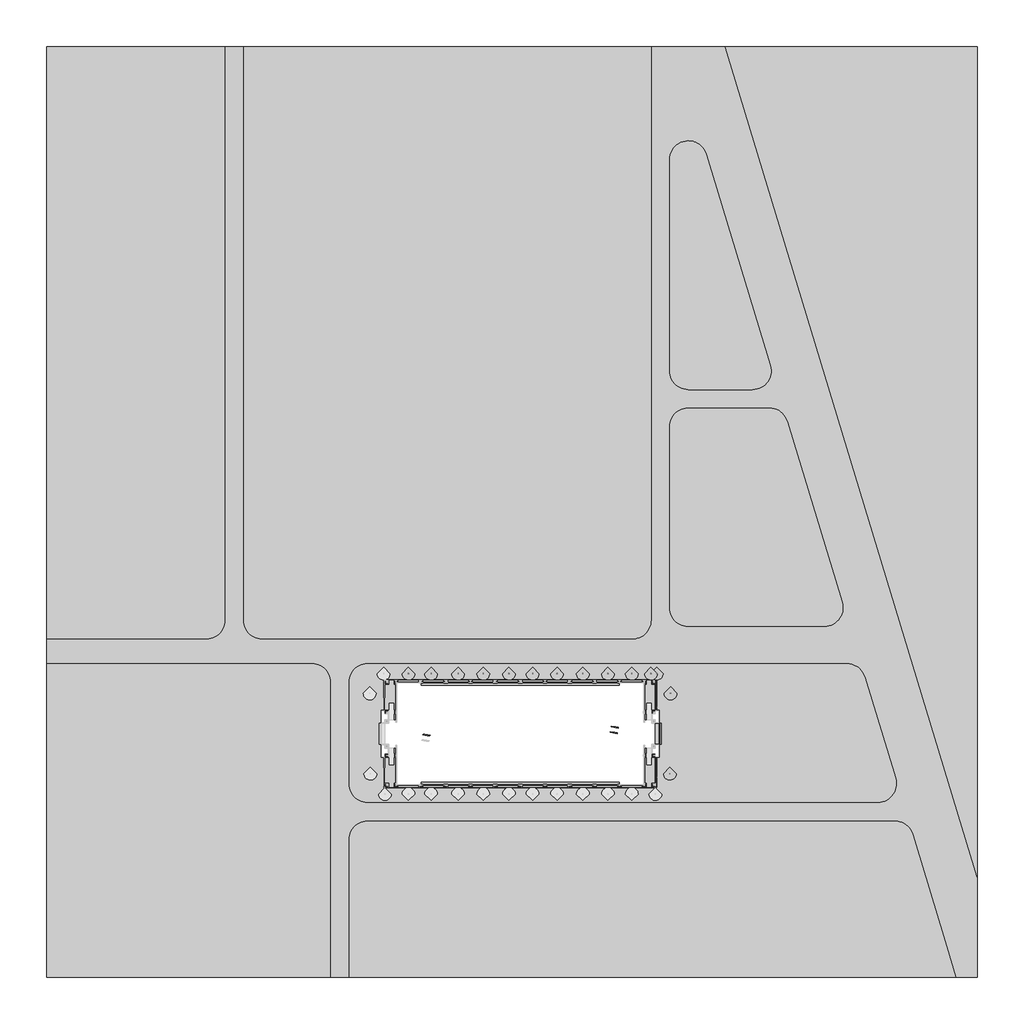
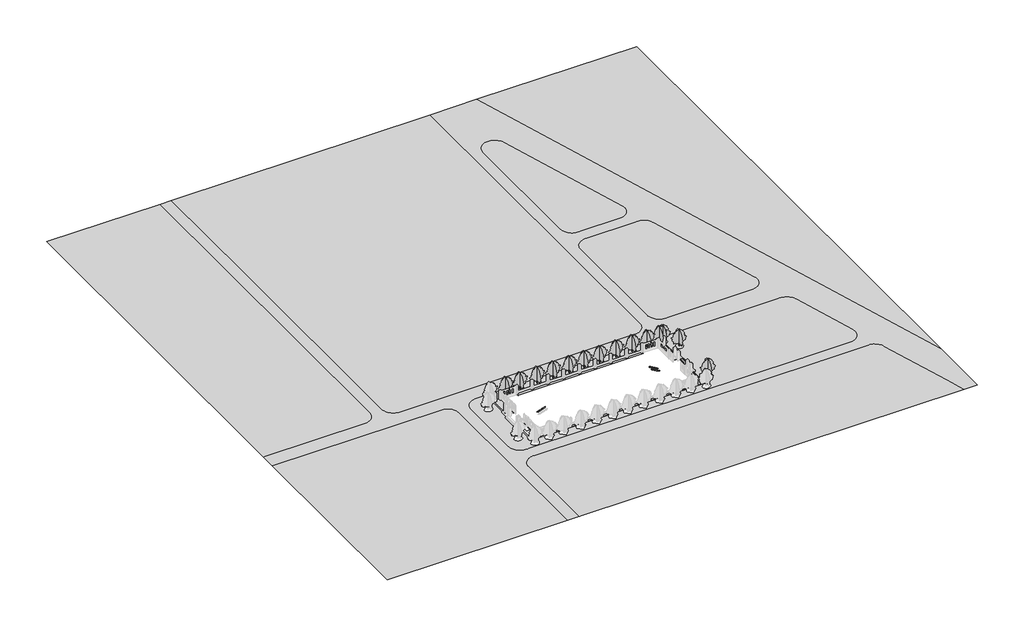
# One storey, part 5 of 5: 14 geographic elements, 5 proxies, 3 members.
"""IFC4 building model written with IfcOpenShell, lengths in millimetres."""

from ifc_helpers import new_model, si_unit, origin, place, context, project, spatial, faceted_brep, triangles, transform, mapped, element, save
from components import generic_models_a7ba552c, generic_models_5a88f2f2, generic_models_980c342f, generic_models_ba8f26eb, generic_models_7e917ab8, generic_models_fe227e94, generic_models_08f2e09a, geographic_element_3358a221, geographic_element_35dbb388

model = new_model("IFC4")

# Units and contexts
model_context = context("Model", 3, world=origin())
ifc_project = project(units=[si_unit("LENGTHUNIT", "METRE", prefix="MILLI")], contexts=[model_context])

# Site, building, storey
site = spatial("IfcSite", under=ifc_project)
building = spatial("IfcBuilding", under=site)
storey = spatial("IfcBuildingStorey", under=building, Name="室外", Elevation=-450.0)

# Proxies
placement = place(None, origin())
element("IfcBuildingElementProxy", 1, Name="Building Element Proxy", at=placement, inside=storey, context=model_context, shape_type="Tessellation", body=[
    triangles([(-52125.2136841, 238081.5049805, -450.0000034), (-109623.0854736, 238081.5049805, -450.0000034), (-109623.0854736, 47199.9980347, -450.0000034), (-58125.2148926, 47199.9980347, -450.0000034), (-57401.9939209, 47243.7488525, -450.0000034), (-56689.3211426, 47374.3501831, -450.0000034), (-55997.5866211, 47589.9044678, -450.0000034), (-55336.8781128, 47887.2630615, -450.0000034), (-54716.8275879, 48262.0959961, -450.0000034), (-54146.4810059, 48708.9338379, -450.0000034), (-53634.1494873, 49221.2653564, -450.0000034), (-53187.3116455, 49791.6119385, -450.0000034), (-52812.4787109, 50411.6624634, -450.0000034), (-52515.1201172, 51072.3709717, -450.0000034), (-52299.5658325, 51764.1054932, -450.0000034), (-52168.964502, 52476.7782715, -450.0000034), (-52125.2136841, 53199.9992432, -450.0000034), (-52125.2136841, 180583.6378418, -450.0000034), (-109623.0854736, 39199.9979736, -450.0000034), (-109623.0854736, -61918.4996338, -450.0000034), (-18125.2157501, -61918.4996338, -450.0000034), (-18125.2157501, 33199.9990906, -450.0000034), (-18168.9630798, 33923.2200623, -450.0000034), (-18299.5644104, 34635.8928406, -450.0000034), (-18515.1186951, 35327.6296875, -450.0000034), (-18812.4796143, 35988.3381958, -450.0000034), (-19187.3125488, 36608.3887207, -450.0000034), (-19634.1503906, 37178.7353027, -450.0000034), (-20146.4795837, 37691.0644958, -450.0000034), (-20716.8284912, 38137.9023376, -450.0000034), (-21336.8766907, 38512.7352722, -450.0000034), (-21997.5875244, 38810.0985168, -450.0000034), (-22689.3220459, 39025.6504761, -450.0000034), (-23401.9948242, 39156.2518066, -450.0000034), (-24125.2157959, 39199.9979736, -450.0000034), (190376.9191406, -29614.3458618, -450.0000034), (190376.9191406, 238081.5049805, -450.0000034), (109136.7523682, 238081.5049805, -450.0000034), (85196.1299561, 238081.5049805, -450.0000034), (-46125.2171265, 238081.5049805, -450.0000034), (-46125.2171265, 174583.6319824, -450.0000034), (-46125.2171265, 53199.9992432, -450.0000034), (-46081.4709595, 52476.7782715, -450.0000034), (-45950.864978, 51764.1054932, -450.0000034), (-45735.3153442, 51072.3709717, -450.0000034), (-45437.9520996, 50411.6624634, -450.0000034), (-45063.119165, 49791.6119385, -450.0000034), (-44616.2813232, 49221.2653564, -450.0000034), (-44103.9498047, 48708.9338379, -450.0000034), (-43533.6032227, 48262.0959961, -450.0000034), (-42913.5526978, 47887.2630615, -450.0000034), (-42252.8441895, 47589.9044678, -450.0000034), (-41561.109668, 47374.3501831, -450.0000034), (-40848.4368896, 47243.7488525, -450.0000034), (-40125.215918, 47199.9980347, -450.0000034), (79196.1333984, 47199.9980347, -450.0000034), (79919.3543701, 47243.7488525, -450.0000034), (80632.0271484, 47374.3501831, -450.0000034), (80976.6758789, 47481.7436279, -450.0000034), (81323.7616699, 47589.9044678, -450.0000034), (81984.4655273, 47887.2630615, -450.0000034), (82604.5207031, 48262.0959961, -450.0000034), (83174.8672852, 48708.9338379, -450.0000034), (83687.1988037, 49221.2653564, -450.0000034), (84134.0366455, 49791.6119385, -450.0000034), (84508.8695801, 50411.6624634, -450.0000034), (84806.2281738, 51072.3709717, -450.0000034), (85021.7778076, 51764.1054932, -450.0000034), (85152.3837891, 52476.7782715, -450.0000034), (85196.1299561, 53199.9992432, -450.0000034), (-12125.2157043, -61918.4996338, -450.0000034), (183459.9832031, -61918.4996338, -450.0000034), (180446.2322754, -51987.8127686, -450.0000034), (169451.0894531, -15757.5428284, -450.0000034), (169183.4220703, -15042.7120422, -450.0000034), (168827.1461426, -14367.6497589, -450.0000034), (168388.0659668, -13743.2820557, -450.0000034), (167873.2694824, -13179.7129669, -450.0000034), (167291.0724609, -12686.0628662, -450.0000034), (166650.9254883, -12270.3231262, -450.0000034), (165963.1721191, -11939.2200806, -450.0000034), (165238.9372559, -11698.1127045, -450.0000034), (164489.9783203, -11550.9054108, -450.0000034), (163728.3689941, -11499.9782867, -450.0000034), (139958.3966309, -11499.9782867, -450.0000034), (-6125.2156586, -11499.9782867, -450.0000034), (-6848.4360489, -11543.7244537, -450.0000034), (-7561.1099899, -11674.326947, -450.0000034), (-8252.8450928, -11889.880069, -450.0000034), (-8913.5547638, -12187.2421509, -450.0000034), (-9533.604126, -12562.0750854, -450.0000034), (-10103.9518707, -13008.9129272, -450.0000034), (-10616.2799011, -13521.2421204, -450.0000034), (-11063.1189056, -14091.5898651, -450.0000034), (-11437.9518402, -14711.6392273, -450.0000034), (-11735.3127594, -15372.3488983, -450.0000034), (-11950.8670441, -16064.0834198, -450.0000034), (-12081.4695374, -16776.7573608, -450.0000034), (-12125.2157043, -17499.9783325, -450.0000034), (154064.7076904, 34942.404364, -450.0000034), (153796.25896, 35658.9420227, -450.0000034), (153438.8110107, 36335.4890991, -450.0000034), (152998.1588379, 36961.0392883, -450.0000034), (152481.4833984, 37525.4234436, -450.0000034), (151897.1748779, 38019.4630554, -450.0000034), (151254.7489746, 38435.1190796, -450.0000034), (150564.6422607, 38765.6337891, -450.0000034), (149838.081958, 39005.6307678, -450.0000034), (149086.8906006, 39151.2102539, -450.0000034), (148323.2720947, 39199.9979736, -450.0000034), (89258.4215332, 39199.9979736, -450.0000034), (-6125.2150772, 39199.9979736, -450.0000034), (-6848.4354675, 39156.2518066, -450.0000034), (-7561.1094086, 39025.6504761, -450.0000034), (-8252.8445114, 38810.0961914, -450.0000034), (-8913.5541824, 38512.7352722, -450.0000034), (-9533.6035446, 38137.9023376, -450.0000034), (-10103.950708, 37691.0644958, -450.0000034), (-10616.2799011, 37178.7353027, -450.0000034), (-11063.1177429, 36608.3887207, -450.0000034), (-11437.9506775, 35988.3381958, -450.0000034), (-11735.3127594, 35327.6296875, -450.0000034), (-11950.8658813, 34635.895166, -450.0000034), (-12081.4683746, 33923.2200623, -450.0000034), (-12125.2145416, 33200.001416, -450.0000034), (-12125.2145416, 500.024966, -450.0000034), (-12081.4683746, -223.1948793, -450.0000034), (-11950.8658813, -935.8685297, -450.0000034), (-11735.3127594, -1627.6037052, -450.0000034), (-11437.9506775, -2288.3130856, -450.0000034), (-11063.1177429, -2908.3623024, -450.0000034), (-10616.2799011, -3478.7094658, -450.0000034), (-10103.950708, -3991.0377869, -450.0000034), (-9533.6035446, -4437.87621, -450.0000034), (-8913.5541824, -4812.7088539, -450.0000034), (-8252.8445114, -5110.0700638, -450.0000034), (-7561.1094086, -5325.6231857, -450.0000034), (-6848.4354675, -5456.2250977, -450.0000034), (-6125.2156586, -5499.971846, -450.0000034), (133958.3907715, -5499.971846, -450.0000034), (158247.0291504, -5499.971846, -450.0000034), (158991.3, -5453.6322327, -450.0000034), (159724.0552734, -5315.3319534, -450.0000034), (160434.0026367, -5087.2057617, -450.0000034), (161110.1660156, -4772.7775703, -450.0000034), (161742.1088379, -4376.9049316, -450.0000034), (162320.0642578, -3905.7017166, -450.0000034), (162835.1025879, -3366.4465508, -450.0000034), (163279.280127, -2767.4691582, -450.0000034), (163645.7321777, -2118.0208637, -450.0000034), (163928.784668, -1428.1336132, -450.0000034), (164124.0657715, -708.4635149, -450.0000034), (164228.5989258, 29.873415, -450.0000034), (164240.7098145, 775.4725788, -450.0000034), (164160.2682129, 1516.8172989, -450.0000034), (163988.4647461, 2242.4567276, -450.0000034), (-1000.0000076, 24199.6461365, -450.0000034), (-1000.0000076, 34199.396228, -450.0000034), (87000.0012451, 34199.396228, -450.0000034), (87000.0012451, 24199.6461365, -450.0000034), (86599.9977539, 24199.6461365, -450.0000034), (86599.9977539, 33799.3950623, -450.0000034), (-600.0000046, 33799.3950623, -450.0000034), (-600.0000046, 24199.6461365, -450.0000034), (-1000.0000076, 8999.745433, -450.0000034), (-600.0000046, 8999.745433, -450.0000034), (-600.0000046, -600.0052368, -450.0000034), (86599.9977539, -600.0052368, -450.0000034), (86599.9977539, 8999.745433, -450.0000034), (87000.0012451, 8999.745433, -450.0000034), (87000.0012451, -1000.0052399, -450.0000034), (-1000.0000076, -1000.0052399, -450.0000034), (87699.9957275, 24099.6452637, -450.0000034), (87699.9957275, 20099.6894165, -450.0000034), (86599.9977539, 20099.6894165, -450.0000034), (86599.9977539, 13100.3096741, -450.0000034), (87699.9957275, 13100.3096741, -450.0000034), (87699.9957275, 9100.3544083, -450.0000034), (86599.9977539, 9100.3544083, -450.0000034), (86599.9977539, 10200.6041107, -450.0000034), (85499.9997803, 10200.6041107, -450.0000034), (85499.9997803, 12000.2989105, -450.0000034), (86599.9977539, 12000.2989105, -450.0000034), (86599.9977539, 12000.6035431, -450.0000034), (83050.0004883, 12000.6035431, -450.0000034), (83050.0004883, 0.3045358, -450.0000034), (74900.0002808, 0.3045358, -450.0000034), (74900.0002808, 917.9999983, -450.0000034), (11100.0003754, 917.9999983, -450.0000034), (11100.0003754, 0.3045361, -450.0000034), (2949.9998772, 0.3045361, -450.0000034), (2949.9998772, 12000.6035431, -450.0000034), (-600.0000046, 12000.6035431, -450.0000034), (-600.0000046, 12000.2989105, -450.0000034), (500.0000038, 12000.2989105, -450.0000034), (500.0000038, 10200.6041107, -450.0000034), (-600.0000046, 10200.6041107, -450.0000034), (-600.0000046, 9100.3544083, -450.0000034), (-1700.000013, 9100.3544083, -450.0000034), (-1700.000013, 13100.3096741, -450.0000034), (-600.0000046, 13100.3096741, -450.0000034), (-600.0000046, 20099.6894165, -450.0000034), (-1700.000013, 20099.6894165, -450.0000034), (-1700.000013, 24099.6452637, -450.0000034), (-600.0000046, 24099.6452637, -450.0000034), (-600.0000046, 22999.3961426, -450.0000034), (500.0000038, 22999.3961426, -450.0000034), (500.0000038, 21199.7013428, -450.0000034), (-600.0000046, 21199.7013428, -450.0000034), (-600.0000046, 21199.3967102, -450.0000034), (2949.9998772, 21199.3967102, -450.0000034), (2949.9998772, 33199.694458, -450.0000034), (11100.0003754, 33199.694458, -450.0000034), (11100.0003754, 32281.9993103, -450.0000034), (74900.0002808, 32281.9993103, -450.0000034), (74900.0002808, 33199.694458, -450.0000034), (83050.0004883, 33199.694458, -450.0000034), (83050.0004883, 21199.3967102, -450.0000034), (86599.9977539, 21199.3967102, -450.0000034), (86599.9977539, 21199.7013428, -450.0000034), (85499.9997803, 21199.7013428, -450.0000034), (85499.9997803, 22999.3961426, -450.0000034), (86599.9977539, 22999.3961426, -450.0000034), (86599.9977539, 24099.6452637, -450.0000034), (129071.0053711, 117299.5750488, -450.0000034), (128802.5659424, 118016.1173584, -450.0000034), (128445.1086914, 118692.6621094, -450.0000034), (128004.4565186, 119318.214624, -450.0000034), (127487.7810791, 119882.5987793, -450.0000034), (126903.4725586, 120376.6337402, -450.0000034), (126261.0466553, 120792.2920898, -450.0000034), (125570.9399414, 121122.8021484, -450.0000034), (124844.3796387, 121362.8061035, -450.0000034), (124093.1882813, 121508.3786133, -450.0000034), (123329.5697754, 121557.1756348, -450.0000034), (97196.132373, 121557.1756348, -450.0000034), (96472.9114014, 121513.4294678, -450.0000034), (95760.238623, 121382.8234863, -450.0000034), (95068.5041016, 121167.2738525, -450.0000034), (94407.7909424, 120869.905957, -450.0000034), (93787.7450684, 120495.0730225, -450.0000034), (93217.3984863, 120048.2351807, -450.0000034), (92705.0669678, 119535.9129639, -450.0000034), (92258.229126, 118965.5570801, -450.0000034), (91883.3961914, 118345.5112061, -450.0000034), (91586.0375977, 117684.7980469, -450.0000034), (91370.4786621, 116993.0635254, -450.0000034), (91239.8819824, 116280.3907471, -450.0000034), (91196.1265137, 115557.1697754, -450.0000034), (91196.1265137, 57200.0015991, -450.0000034), (91239.8819824, 56476.7806274, -450.0000034), (91370.4786621, 55764.1078491, -450.0000034), (91586.0375977, 55072.3686768, -450.0000034), (91883.3961914, 54411.6601685, -450.0000034), (92258.229126, 53791.6096436, -450.0000034), (92705.0669678, 53221.2630615, -450.0000034), (93217.3984863, 52708.9361938, -450.0000034), (93787.7450684, 52262.0983521, -450.0000034), (94407.7909424, 51887.2654175, -450.0000034), (95068.5041016, 51589.9021729, -450.0000034), (95760.238623, 51374.3478882, -450.0000034), (96472.9114014, 51243.7465576, -450.0000034), (97196.132373, 51200.0003906, -450.0000034), (141039.7724854, 51200.0003906, -450.0000034), (141784.0247314, 51246.3370972, -450.0000034), (142516.7800049, 51384.6402832, -450.0000034), (143226.7273682, 51612.7612427, -450.0000034), (143902.8907471, 51927.188562, -450.0000034), (144534.8335693, 52323.0620728, -450.0000034), (145112.7889893, 52794.2612183, -450.0000034), (145627.8273193, 53333.5166748, -450.0000034), (146072.0048584, 53932.4940674, -450.0000034), (146438.4476074, 54581.938147, -450.0000034), (146721.5093994, 55271.8216187, -450.0000034), (146916.7998047, 55991.4893188, -450.0000034), (147021.3236572, 56729.825647, -450.0000034), (147033.4438477, 57475.4219971, -450.0000034), (146952.9929443, 58216.7674438, -450.0000034), (146781.1987793, 58942.4068726, -450.0000034), (102937.558667, 203412.328125, -450.0000034), (102664.7009033, 204138.6651855, -450.0000034), (102300.3975586, 204823.7210449, -450.0000034), (101850.7319824, 205456.0359375, -450.0000034), (101323.2385986, 206025.0430664, -450.0000034), (100726.7168701, 206521.2174316, -450.0000034), (100071.1568848, 206936.2618652, -450.0000034), (99367.525415, 207263.2372559, -450.0000034), (98627.5705811, 207496.6741699, -450.0000034), (97863.691626, 207632.6658691, -450.0000034), (97088.6412598, 207668.9613281, -450.0000034), (96315.3861328, 207604.9280273, -450.0000034), (95556.8649902, 207441.6449707, -450.0000034), (94825.7561279, 207181.846875, -450.0000034), (94134.2820557, 206829.8683594, -450.0000034), (93494.0141602, 206391.6067383, -450.0000034), (92915.6587646, 205874.3917969, -450.0000034), (92408.8803955, 205286.8555664, -450.0000034), (91982.1529541, 204638.8393066, -450.0000034), (91642.6294922, 203941.1702637, -450.0000034), (91395.9654785, 203205.5314453, -450.0000034), (91246.3001953, 202444.2011719, -450.0000034), (91196.1265137, 201669.9228516, -450.0000034), (91196.1265137, 133557.16875, -450.0000034), (91239.8819824, 132833.9570801, -450.0000034), (91370.4786621, 132121.275, -450.0000034), (91586.0375977, 131429.5404785, -450.0000034), (91883.3961914, 130768.8366211, -450.0000034), (92258.229126, 130148.7814453, -450.0000034), (92705.0669678, 129578.4348633, -450.0000034), (93217.3984863, 129066.1126465, -450.0000034), (93787.7450684, 128619.2655029, -450.0000034), (94407.7909424, 128244.4325684, -450.0000034), (95068.5041016, 127947.0739746, -450.0000034), (95760.238623, 127731.5243408, -450.0000034), (96472.9114014, 127600.9183594, -450.0000034), (97196.132373, 127557.1721924, -450.0000034), (117866.9450684, 127557.1721924, -450.0000034), (118611.1973145, 127603.5135498, -450.0000034), (119343.9618896, 127741.812085, -450.0000034), (120053.8999512, 127969.9376953, -450.0000034), (120730.0726318, 128284.3650146, -450.0000034), (121362.0061523, 128680.2385254, -450.0000034), (121939.9615723, 129151.4376709, -450.0000034), (122455.0092041, 129690.6884766, -450.0000034), (122899.1774414, 130289.6658691, -450.0000034), (123265.6294922, 130939.1145996, -450.0000034), (123548.6819824, 131628.9980713, -450.0000034), (123743.9816895, 132348.6657715, -450.0000034), (123848.4962402, 133087.0020996, -450.0000034), (123860.6164307, 133832.5937988, -450.0000034), (123780.1655273, 134573.9438965, -450.0000034), (123608.3713623, 135299.5740234, -450.0000034)], [[98, 86, 97], [98, 99, 86], [22, 19, 20], [96, 97, 86], [95, 86, 94], [95, 96, 86], [86, 93, 94], [99, 71, 86], [86, 90, 91], [89, 86, 88], [90, 86, 89], [91, 92, 86], [137, 138, 172], [87, 88, 86], [172, 138, 139], [92, 93, 86], [172, 131, 132], [172, 133, 134], [132, 133, 172], [130, 131, 172], [127, 128, 172], [172, 129, 130], [129, 172, 128], [126, 127, 172], [172, 134, 135], [126, 172, 199], [172, 136, 137], [198, 166, 196], [165, 166, 198], [139, 171, 172], [199, 172, 165], [203, 200, 201], [126, 200, 203], [200, 126, 199], [199, 165, 198], [125, 126, 203], [166, 167, 191], [172, 135, 136], [71, 85, 86], [203, 204, 125], [192, 196, 191], [196, 197, 198], [190, 191, 167], [166, 191, 196], [193, 195, 192], [192, 195, 196], [193, 194, 195], [201, 202, 203], [189, 190, 188], [190, 187, 188], [181, 185, 186], [182, 185, 181], [185, 182, 184], [183, 184, 182], [175, 176, 174], [181, 186, 169], [168, 187, 167], [209, 210, 208], [207, 208, 211], [208, 210, 211], [205, 164, 157], [164, 205, 207], [211, 212, 207], [207, 212, 164], [205, 206, 207], [205, 157, 204], [222, 218, 221], [219, 220, 221], [215, 216, 214], [222, 224, 161], [224, 222, 223], [161, 224, 160], [222, 161, 217], [218, 222, 217], [217, 161, 162], [221, 218, 219], [213, 214, 216], [167, 187, 190], [164, 212, 163], [17, 4, 5], [17, 3, 4], [5, 6, 17], [17, 7, 8], [42, 50, 51], [6, 7, 17], [22, 35, 19], [9, 17, 8], [23, 32, 33], [31, 25, 30], [32, 24, 31], [22, 33, 34], [42, 52, 53], [53, 54, 42], [52, 42, 51], [35, 22, 34], [20, 21, 22], [42, 54, 55], [11, 17, 10], [13, 17, 12], [17, 11, 12], [17, 13, 14], [15, 17, 14], [18, 1, 2], [17, 15, 16], [18, 2, 3], [17, 9, 10], [44, 45, 46], [43, 47, 48], [46, 47, 44], [42, 48, 49], [49, 50, 42], [3, 17, 18], [43, 44, 47], [48, 42, 43], [41, 42, 70], [39, 40, 41], [24, 32, 23], [124, 125, 158], [25, 31, 24], [28, 29, 27], [29, 26, 27], [29, 30, 26], [25, 26, 30], [23, 33, 22], [122, 123, 158], [123, 124, 158], [117, 158, 116], [204, 157, 158], [212, 213, 163], [204, 158, 125], [213, 216, 163], [158, 121, 122], [158, 120, 121], [119, 120, 158], [158, 118, 119], [158, 117, 118], [162, 216, 217], [216, 162, 163], [116, 158, 115], [158, 113, 114], [114, 115, 158], [42, 56, 70], [111, 112, 158], [158, 112, 113], [56, 57, 59], [39, 41, 70], [56, 59, 70], [58, 59, 57], [59, 60, 61], [63, 59, 62], [64, 65, 59], [59, 63, 64], [59, 65, 66], [68, 59, 67], [69, 59, 68], [42, 55, 56], [69, 70, 59], [59, 66, 67], [61, 62, 59], [179, 169, 170], [179, 181, 169], [186, 187, 168], [180, 181, 179], [170, 178, 179], [173, 159, 160], [173, 160, 224], [173, 174, 140], [176, 177, 174], [159, 173, 111], [170, 171, 178], [186, 168, 169], [177, 178, 140], [178, 171, 140], [139, 140, 171], [140, 174, 177], [261, 262, 263], [279, 250, 263], [111, 173, 110], [263, 260, 261], [264, 265, 279], [140, 110, 173], [250, 255, 256], [250, 257, 258], [256, 257, 250], [250, 258, 259], [250, 251, 252], [253, 254, 250], [253, 250, 252], [250, 254, 255], [260, 263, 259], [264, 279, 263], [266, 279, 265], [267, 268, 279], [267, 279, 266], [269, 279, 268], [270, 271, 278], [271, 272, 277], [273, 274, 275], [272, 273, 276], [279, 269, 270], [259, 263, 250], [276, 273, 275], [155, 141, 142], [84, 82, 83], [82, 84, 81], [153, 143, 144], [152, 145, 146], [144, 145, 152], [142, 143, 154], [147, 150, 146], [84, 74, 79], [74, 84, 85], [76, 74, 75], [80, 81, 84], [79, 80, 84], [74, 77, 78], [78, 79, 74], [77, 74, 76], [73, 74, 85], [85, 72, 73], [100, 104, 105], [103, 100, 102], [104, 100, 103], [100, 105, 106], [109, 100, 108], [107, 108, 100], [107, 100, 106], [110, 100, 109], [149, 150, 147], [152, 146, 151], [146, 150, 151], [152, 153, 144], [110, 140, 100], [101, 102, 100], [154, 155, 142], [156, 141, 155], [153, 154, 143], [100, 140, 156], [148, 149, 147], [36, 37, 38], [140, 141, 156], [71, 72, 85], [272, 276, 277], [248, 249, 247], [249, 246, 247], [246, 249, 245], [249, 244, 245], [244, 249, 243], [243, 249, 242], [249, 241, 242], [249, 240, 241], [240, 249, 239], [238, 236, 237], [236, 238, 239], [249, 236, 239], [305, 312, 313], [314, 315, 303], [314, 304, 313], [311, 312, 306], [249, 235, 236], [303, 315, 316], [304, 305, 313], [306, 307, 311], [306, 312, 305], [280, 302, 303], [280, 299, 300], [298, 299, 280], [280, 297, 298], [280, 300, 301], [307, 310, 311], [307, 308, 310], [280, 296, 297], [295, 296, 280], [304, 314, 303], [310, 308, 309], [292, 293, 280], [294, 280, 293], [291, 282, 290], [292, 281, 291], [280, 294, 295], [302, 280, 301], [332, 303, 316], [332, 317, 318], [234, 225, 233], [225, 234, 235], [319, 320, 332], [332, 321, 322], [320, 321, 332], [318, 319, 332], [323, 332, 322], [233, 225, 232], [270, 278, 279], [225, 235, 249], [225, 226, 227], [225, 230, 231], [231, 232, 225], [225, 228, 229], [229, 230, 225], [225, 227, 228], [225, 249, 250], [279, 225, 250], [283, 289, 290], [290, 282, 283], [282, 291, 281], [284, 289, 283], [289, 284, 288], [287, 285, 286], [285, 287, 288], [284, 285, 288], [280, 281, 292], [332, 324, 325], [332, 326, 327], [325, 326, 332], [327, 328, 332], [331, 332, 330], [329, 330, 332], [328, 329, 332], [332, 280, 303], [323, 324, 332], [316, 317, 332], [277, 278, 271], [159, 111, 158]], closed=False),
])
element("IfcBuildingElementProxy", 2, Name="Building Element Proxy", at=placement, inside=storey, context=model_context, shape_type="Tessellation", body=[
    triangles([(190376.9191406, -61918.4996338, -450.0000034), (190376.9191406, -29614.3458618, -450.0000034), (109136.7523682, 238081.5049805, -450.0000034), (85196.1299561, 238081.5049805, -450.0000034), (85196.1299561, 53199.9992432, -450.0000034), (85152.3837891, 52476.7782715, -450.0000034), (85021.7778076, 51764.1054932, -450.0000034), (84806.2281738, 51072.3709717, -450.0000034), (84508.8695801, 50411.6624634, -450.0000034), (84134.0366455, 49791.6119385, -450.0000034), (83687.1988037, 49221.2653564, -450.0000034), (83174.8672852, 48708.9338379, -450.0000034), (82604.5207031, 48262.0959961, -450.0000034), (81984.4655273, 47887.2630615, -450.0000034), (81323.7616699, 47589.9044678, -450.0000034), (80976.6758789, 47481.7436279, -450.0000034), (80632.0271484, 47374.3501831, -450.0000034), (79919.3543701, 47243.7488525, -450.0000034), (79196.1333984, 47199.9980347, -450.0000034), (-40125.215918, 47199.9980347, -450.0000034), (-40848.4368896, 47243.7488525, -450.0000034), (-41561.109668, 47374.3501831, -450.0000034), (-42252.8441895, 47589.9044678, -450.0000034), (-42913.5526978, 47887.2630615, -450.0000034), (-43533.6032227, 48262.0959961, -450.0000034), (-44103.9498047, 48708.9338379, -450.0000034), (-44616.2813232, 49221.2653564, -450.0000034), (-45063.119165, 49791.6119385, -450.0000034), (-45437.9520996, 50411.6624634, -450.0000034), (-45735.3153442, 51072.3709717, -450.0000034), (-45950.864978, 51764.1054932, -450.0000034), (-46081.4709595, 52476.7782715, -450.0000034), (-46125.2171265, 53199.9992432, -450.0000034), (-46125.2171265, 174583.6319824, -450.0000034), (-46125.2171265, 238081.5049805, -450.0000034), (-52125.2136841, 238081.5049805, -450.0000034), (-52125.2136841, 180583.6378418, -450.0000034), (-52125.2136841, 53199.9992432, -450.0000034), (-52168.964502, 52476.7782715, -450.0000034), (-52299.5658325, 51764.1054932, -450.0000034), (-52515.1201172, 51072.3709717, -450.0000034), (-52812.4787109, 50411.6624634, -450.0000034), (-53187.3116455, 49791.6119385, -450.0000034), (-53634.1494873, 49221.2653564, -450.0000034), (-54146.4810059, 48708.9338379, -450.0000034), (-54716.8275879, 48262.0959961, -450.0000034), (-55336.8781128, 47887.2630615, -450.0000034), (-55997.5866211, 47589.9044678, -450.0000034), (-56689.3211426, 47374.3501831, -450.0000034), (-57401.9939209, 47243.7488525, -450.0000034), (-58125.2148926, 47199.9980347, -450.0000034), (-109623.0854736, 47199.9980347, -450.0000034), (-109623.0854736, 39199.9979736, -450.0000034), (-24125.2157959, 39199.9979736, -450.0000034), (-23401.9948242, 39156.2518066, -450.0000034), (-22689.3220459, 39025.6504761, -450.0000034), (-21997.5875244, 38810.0985168, -450.0000034), (-21336.8766907, 38512.7352722, -450.0000034), (-20716.8284912, 38137.9023376, -450.0000034), (-20146.4795837, 37691.0644958, -450.0000034), (-19634.1503906, 37178.7353027, -450.0000034), (-19187.3125488, 36608.3887207, -450.0000034), (-18812.4796143, 35988.3381958, -450.0000034), (-18515.1186951, 35327.6296875, -450.0000034), (-18299.5644104, 34635.8928406, -450.0000034), (-18168.9630798, 33923.2200623, -450.0000034), (-18125.2157501, 33199.9990906, -450.0000034), (-18125.2157501, -61918.4996338, -450.0000034), (-12125.2157043, -61918.4996338, -450.0000034), (-12125.2157043, -17499.9783325, -450.0000034), (-12081.4695374, -16776.7573608, -450.0000034), (-11950.8670441, -16064.0834198, -450.0000034), (-11735.3127594, -15372.3488983, -450.0000034), (-11437.9518402, -14711.6392273, -450.0000034), (-11063.1189056, -14091.5898651, -450.0000034), (-10616.2799011, -13521.2421204, -450.0000034), (-10103.9518707, -13008.9129272, -450.0000034), (-9533.604126, -12562.0750854, -450.0000034), (-8913.5547638, -12187.2421509, -450.0000034), (-8252.8450928, -11889.880069, -450.0000034), (-7561.1099899, -11674.326947, -450.0000034), (-6848.4360489, -11543.7244537, -450.0000034), (-6125.2156586, -11499.9782867, -450.0000034), (139958.3966309, -11499.9782867, -450.0000034), (163728.3689941, -11499.9782867, -450.0000034), (164489.9783203, -11550.9054108, -450.0000034), (165238.9372559, -11698.1127045, -450.0000034), (165963.1721191, -11939.2200806, -450.0000034), (166650.9254883, -12270.3231262, -450.0000034), (167291.0724609, -12686.0628662, -450.0000034), (167873.2694824, -13179.7129669, -450.0000034), (168388.0659668, -13743.2820557, -450.0000034), (168827.1461426, -14367.6497589, -450.0000034), (169183.4220703, -15042.7120422, -450.0000034), (169451.0894531, -15757.5428284, -450.0000034), (180446.2322754, -51987.8127686, -450.0000034), (183459.9832031, -61918.4996338, -450.0000034), (154064.7076904, 34942.404364, -450.0000034), (163988.4647461, 2242.4567276, -450.0000034), (164160.2682129, 1516.8172989, -450.0000034), (164240.7098145, 775.4725788, -450.0000034), (164228.5989258, 29.873415, -450.0000034), (164124.0657715, -708.4635149, -450.0000034), (163928.784668, -1428.1336132, -450.0000034), (163645.7321777, -2118.0208637, -450.0000034), (163279.280127, -2767.4691582, -450.0000034), (162835.1025879, -3366.4465508, -450.0000034), (162320.0642578, -3905.7017166, -450.0000034), (161742.1088379, -4376.9049316, -450.0000034), (161110.1660156, -4772.7775703, -450.0000034), (160434.0026367, -5087.2057617, -450.0000034), (159724.0552734, -5315.3319534, -450.0000034), (158991.3, -5453.6322327, -450.0000034), (158247.0291504, -5499.971846, -450.0000034), (133958.3907715, -5499.971846, -450.0000034), (-6125.2156586, -5499.971846, -450.0000034), (-6848.4354675, -5456.2250977, -450.0000034), (-7561.1094086, -5325.6231857, -450.0000034), (-8252.8445114, -5110.0700638, -450.0000034), (-8913.5541824, -4812.7088539, -450.0000034), (-9533.6035446, -4437.87621, -450.0000034), (-10103.950708, -3991.0377869, -450.0000034), (-10616.2799011, -3478.7094658, -450.0000034), (-11063.1177429, -2908.3623024, -450.0000034), (-11437.9506775, -2288.3130856, -450.0000034), (-11735.3127594, -1627.6037052, -450.0000034), (-11950.8658813, -935.8685297, -450.0000034), (-12081.4683746, -223.1948793, -450.0000034), (-12125.2145416, 500.024966, -450.0000034), (-12125.2145416, 33200.001416, -450.0000034), (-12081.4683746, 33923.2200623, -450.0000034), (-11950.8658813, 34635.895166, -450.0000034), (-11735.3127594, 35327.6296875, -450.0000034), (-11437.9506775, 35988.3381958, -450.0000034), (-11063.1177429, 36608.3887207, -450.0000034), (-10616.2799011, 37178.7353027, -450.0000034), (-10103.950708, 37691.0644958, -450.0000034), (-9533.6035446, 38137.9023376, -450.0000034), (-8913.5541824, 38512.7352722, -450.0000034), (-8252.8445114, 38810.0961914, -450.0000034), (-7561.1094086, 39025.6504761, -450.0000034), (-6848.4354675, 39156.2518066, -450.0000034), (-6125.2150772, 39199.9979736, -450.0000034), (89258.4215332, 39199.9979736, -450.0000034), (148323.2720947, 39199.9979736, -450.0000034), (149086.8906006, 39151.2102539, -450.0000034), (149838.081958, 39005.6307678, -450.0000034), (150564.6422607, 38765.6337891, -450.0000034), (151254.7489746, 38435.1190796, -450.0000034), (151897.1748779, 38019.4630554, -450.0000034), (152481.4833984, 37525.4234436, -450.0000034), (152998.1588379, 36961.0392883, -450.0000034), (153438.8110107, 36335.4890991, -450.0000034), (153796.25896, 35658.9420227, -450.0000034), (129071.0053711, 117299.5750488, -450.0000034), (146781.1987793, 58942.4068726, -450.0000034), (146952.9929443, 58216.7674438, -450.0000034), (147033.4438477, 57475.4219971, -450.0000034), (147021.3236572, 56729.825647, -450.0000034), (146916.7998047, 55991.4893188, -450.0000034), (146721.5093994, 55271.8216187, -450.0000034), (146438.4476074, 54581.938147, -450.0000034), (146072.0048584, 53932.4940674, -450.0000034), (145627.8273193, 53333.5166748, -450.0000034), (145112.7889893, 52794.2612183, -450.0000034), (144534.8335693, 52323.0620728, -450.0000034), (143902.8907471, 51927.188562, -450.0000034), (143226.7273682, 51612.7612427, -450.0000034), (142516.7800049, 51384.6402832, -450.0000034), (141784.0247314, 51246.3370972, -450.0000034), (141039.7724854, 51200.0003906, -450.0000034), (97196.132373, 51200.0003906, -450.0000034), (96472.9114014, 51243.7465576, -450.0000034), (95760.238623, 51374.3478882, -450.0000034), (95068.5041016, 51589.9021729, -450.0000034), (94407.7909424, 51887.2654175, -450.0000034), (93787.7450684, 52262.0983521, -450.0000034), (93217.3984863, 52708.9361938, -450.0000034), (92705.0669678, 53221.2630615, -450.0000034), (92258.229126, 53791.6096436, -450.0000034), (91883.3961914, 54411.6601685, -450.0000034), (91586.0375977, 55072.3686768, -450.0000034), (91370.4786621, 55764.1078491, -450.0000034), (91239.8819824, 56476.7806274, -450.0000034), (91196.1265137, 57200.0015991, -450.0000034), (91196.1265137, 115557.1697754, -450.0000034), (91239.8819824, 116280.3907471, -450.0000034), (91370.4786621, 116993.0635254, -450.0000034), (91586.0375977, 117684.7980469, -450.0000034), (91883.3961914, 118345.5112061, -450.0000034), (92258.229126, 118965.5570801, -450.0000034), (92705.0669678, 119535.9129639, -450.0000034), (93217.3984863, 120048.2351807, -450.0000034), (93787.7450684, 120495.0730225, -450.0000034), (94407.7909424, 120869.905957, -450.0000034), (95068.5041016, 121167.2738525, -450.0000034), (95760.238623, 121382.8234863, -450.0000034), (96472.9114014, 121513.4294678, -450.0000034), (97196.132373, 121557.1756348, -450.0000034), (123329.5697754, 121557.1756348, -450.0000034), (124093.1882813, 121508.3786133, -450.0000034), (124844.3796387, 121362.8061035, -450.0000034), (125570.9399414, 121122.8021484, -450.0000034), (126261.0466553, 120792.2920898, -450.0000034), (126903.4725586, 120376.6337402, -450.0000034), (127487.7810791, 119882.5987793, -450.0000034), (128004.4565186, 119318.214624, -450.0000034), (128445.1086914, 118692.6621094, -450.0000034), (128802.5659424, 118016.1173584, -450.0000034), (102937.558667, 203412.328125, -450.0000034), (123608.3713623, 135299.5740234, -450.0000034), (123780.1655273, 134573.9438965, -450.0000034), (123860.6164307, 133832.5937988, -450.0000034), (123848.4962402, 133087.0020996, -450.0000034), (123743.9816895, 132348.6657715, -450.0000034), (123548.6819824, 131628.9980713, -450.0000034), (123265.6294922, 130939.1145996, -450.0000034), (122899.1774414, 130289.6658691, -450.0000034), (122455.0092041, 129690.6884766, -450.0000034), (121939.9615723, 129151.4376709, -450.0000034), (121362.0061523, 128680.2385254, -450.0000034), (120730.0726318, 128284.3650146, -450.0000034), (120053.8999512, 127969.9376953, -450.0000034), (119343.9618896, 127741.812085, -450.0000034), (118611.1973145, 127603.5135498, -450.0000034), (117866.9450684, 127557.1721924, -450.0000034), (97196.132373, 127557.1721924, -450.0000034), (96472.9114014, 127600.9183594, -450.0000034), (95760.238623, 127731.5243408, -450.0000034), (95068.5041016, 127947.0739746, -450.0000034), (94407.7909424, 128244.4325684, -450.0000034), (93787.7450684, 128619.2655029, -450.0000034), (93217.3984863, 129066.1126465, -450.0000034), (92705.0669678, 129578.4348633, -450.0000034), (92258.229126, 130148.7814453, -450.0000034), (91883.3961914, 130768.8366211, -450.0000034), (91586.0375977, 131429.5404785, -450.0000034), (91370.4786621, 132121.275, -450.0000034), (91239.8819824, 132833.9570801, -450.0000034), (91196.1265137, 133557.16875, -450.0000034), (91196.1265137, 201669.9228516, -450.0000034), (91246.3001953, 202444.2011719, -450.0000034), (91395.9654785, 203205.5314453, -450.0000034), (91642.6294922, 203941.1702637, -450.0000034), (91982.1529541, 204638.8393066, -450.0000034), (92408.8803955, 205286.8555664, -450.0000034), (92915.6587646, 205874.3917969, -450.0000034), (93494.0141602, 206391.6067383, -450.0000034), (94134.2820557, 206829.8683594, -450.0000034), (94825.7561279, 207181.846875, -450.0000034), (95556.8649902, 207441.6449707, -450.0000034), (96315.3861328, 207604.9280273, -450.0000034), (97088.6412598, 207668.9613281, -450.0000034), (97863.691626, 207632.6658691, -450.0000034), (98627.5705811, 207496.6741699, -450.0000034), (99367.525415, 207263.2372559, -450.0000034), (100071.1568848, 206936.2618652, -450.0000034), (100726.7168701, 206521.2174316, -450.0000034), (101323.2385986, 206025.0430664, -450.0000034), (101850.7319824, 205456.0359375, -450.0000034), (102300.3975586, 204823.7210449, -450.0000034), (102664.7009033, 204138.6651855, -450.0000034)], [[68, 69, 70], [68, 70, 67], [128, 67, 71], [131, 65, 66], [67, 130, 66], [130, 67, 129], [131, 66, 130], [128, 71, 72], [72, 73, 127], [126, 73, 74], [126, 127, 73], [128, 72, 127], [131, 132, 65], [67, 128, 129], [65, 132, 64], [51, 53, 54], [55, 56, 20], [70, 71, 67], [54, 55, 20], [51, 52, 53], [54, 20, 21], [49, 54, 22], [54, 50, 51], [20, 56, 141], [136, 61, 62], [133, 63, 64], [135, 62, 63], [57, 58, 140], [138, 59, 60], [139, 58, 59], [60, 61, 137], [141, 56, 57], [133, 64, 132], [125, 74, 75], [123, 76, 77], [124, 75, 76], [77, 78, 122], [121, 78, 79], [79, 120, 121], [120, 79, 80], [122, 78, 121], [80, 81, 119], [82, 83, 117], [81, 82, 118], [118, 119, 81], [116, 117, 83], [118, 82, 117], [115, 116, 83], [80, 119, 120], [124, 125, 75], [122, 123, 77], [124, 76, 123], [133, 134, 63], [135, 136, 62], [134, 135, 63], [137, 138, 60], [139, 140, 58], [138, 139, 59], [142, 20, 141], [19, 144, 18], [19, 20, 143], [20, 142, 143], [140, 141, 57], [144, 19, 143], [136, 137, 61], [125, 126, 74], [23, 47, 48], [25, 46, 24], [46, 47, 24], [44, 45, 26], [25, 26, 45], [45, 46, 25], [27, 44, 26], [48, 49, 22], [54, 49, 50], [17, 18, 144], [23, 24, 47], [16, 17, 144], [144, 15, 16], [22, 23, 48], [54, 21, 22], [42, 43, 28], [40, 41, 30], [42, 29, 41], [37, 38, 34], [39, 32, 38], [36, 37, 35], [40, 31, 39], [29, 30, 41], [27, 28, 43], [29, 42, 28], [35, 37, 34], [32, 33, 38], [31, 32, 39], [38, 33, 34], [30, 31, 40], [43, 44, 27], [14, 144, 13], [12, 144, 11], [144, 12, 13], [9, 10, 177], [180, 7, 179], [7, 8, 179], [144, 10, 11], [5, 6, 181], [180, 181, 6], [6, 7, 180], [5, 181, 182], [184, 185, 5], [182, 183, 5], [184, 5, 183], [5, 185, 186], [9, 178, 8], [5, 186, 240], [240, 187, 239], [188, 239, 187], [5, 240, 4], [242, 4, 241], [241, 4, 240], [4, 242, 243], [239, 188, 238], [240, 186, 187], [237, 189, 190], [191, 236, 190], [237, 190, 236], [244, 245, 4], [238, 189, 237], [243, 244, 4], [236, 191, 235], [189, 238, 188], [4, 245, 246], [15, 144, 14], [177, 10, 144], [83, 84, 115], [171, 145, 170], [145, 172, 144], [172, 145, 171], [174, 144, 173], [144, 172, 173], [170, 145, 169], [174, 175, 144], [162, 149, 150], [152, 153, 159], [161, 150, 151], [166, 145, 146], [164, 147, 148], [165, 146, 147], [148, 149, 163], [115, 84, 114], [160, 151, 152], [176, 144, 175], [168, 169, 145], [179, 8, 178], [9, 177, 178], [168, 145, 167], [177, 144, 176], [165, 166, 146], [163, 164, 148], [165, 147, 164], [161, 162, 150], [159, 160, 152], [161, 151, 160], [163, 149, 162], [167, 145, 166], [159, 153, 158], [107, 87, 88], [104, 90, 91], [106, 88, 89], [113, 114, 85], [114, 84, 85], [109, 85, 86], [87, 108, 86], [105, 89, 90], [96, 97, 1], [1, 2, 96], [96, 2, 95], [102, 92, 93], [94, 95, 2], [93, 94, 2], [92, 103, 91], [101, 93, 2], [112, 113, 85], [110, 111, 85], [112, 85, 111], [157, 154, 98], [108, 109, 86], [110, 85, 109], [106, 107, 88], [104, 105, 90], [106, 89, 105], [101, 102, 93], [100, 101, 2], [103, 92, 102], [99, 100, 2], [104, 91, 103], [108, 87, 107], [98, 99, 2], [154, 158, 153], [156, 98, 2], [192, 193, 234], [194, 195, 232], [193, 194, 233], [233, 234, 193], [231, 232, 195], [233, 194, 232], [195, 196, 231], [192, 234, 235], [196, 197, 230], [198, 199, 228], [197, 198, 229], [229, 230, 197], [227, 228, 199], [229, 198, 228], [196, 230, 231], [249, 4, 248], [248, 4, 247], [251, 4, 250], [253, 4, 252], [252, 4, 251], [250, 4, 249], [258, 259, 3], [260, 261, 3], [259, 260, 3], [253, 254, 3], [256, 257, 3], [255, 256, 3], [254, 255, 3], [258, 3, 257], [253, 3, 4], [227, 199, 226], [235, 191, 192], [220, 201, 202], [218, 203, 204], [219, 202, 203], [225, 226, 200], [225, 200, 224], [199, 200, 226], [201, 221, 200], [217, 204, 205], [156, 2, 155], [157, 158, 154], [157, 98, 156], [206, 207, 215], [208, 209, 213], [207, 208, 214], [155, 212, 209], [216, 205, 206], [223, 224, 200], [221, 222, 200], [223, 200, 222], [262, 210, 3], [210, 211, 3], [262, 3, 261], [221, 201, 220], [218, 219, 203], [216, 217, 205], [218, 204, 217], [213, 214, 208], [212, 213, 209], [215, 207, 214], [212, 155, 211], [216, 206, 215], [220, 202, 219], [211, 155, 3], [3, 155, 2], [247, 4, 246]], closed=False),
])
generic_models_shape = generic_models_a7ba552c(model_context)
element("IfcBuildingElementProxy", 3, Name="室外台阶 : 室外台阶", ObjectType="室外台阶 : 室外台阶", at=placement, inside=storey, context=model_context, shape_type="MappedRepresentation", body=[
    mapped(generic_models_shape, transform((86600.0000001, 19999.7006935, 0.0), x_axis=(0.0, -1.0, 0.0), y_axis=(1.0, 0.0, 0.0), z_axis=(0.0, 0.0, 1.0))),
])
generic_models_2_shape = generic_models_5a88f2f2(model_context)
generic_models_3_shape = generic_models_980c342f(model_context)
generic_models_4_shape = generic_models_ba8f26eb(model_context)
element("IfcBuildingElementProxy", 4, Name="排水沟盖板 : 排水沟盖板", ObjectType="排水沟盖板 : 排水沟盖板", at=placement, inside=storey, context=model_context, shape_type="MappedRepresentation", body=[
    mapped(generic_models_2_shape, transform((86800.0000004, 24199.6454368, -450.0), x_axis=(0.0, 1.0, 0.0), y_axis=(-1.0, 0.0, 0.0), z_axis=(0.0, 0.0, 1.0))),
    mapped(generic_models_3_shape, transform((86800.0000004, 24199.6454368, -450.0), x_axis=(0.0, 1.0, 0.0), y_axis=(-1.0, 0.0, 0.0), z_axis=(0.0, 0.0, 1.0))),
    mapped(generic_models_4_shape, transform((86800.0000004, 24199.6454368, -450.0), x_axis=(0.0, 1.0, 0.0), y_axis=(-1.0, 0.0, 0.0), z_axis=(0.0, 0.0, 1.0))),
])
generic_models_5_shape = generic_models_7e917ab8(model_context)
generic_models_6_shape = generic_models_fe227e94(model_context)
generic_models_7_shape = generic_models_08f2e09a(model_context)
element("IfcBuildingElementProxy", 5, Name="排水沟盖板 : 排水沟盖板", ObjectType="排水沟盖板 : 排水沟盖板", at=placement, inside=storey, context=model_context, shape_type="MappedRepresentation", body=[
    mapped(generic_models_5_shape, transform((86800.0000004, 9000.3545632, -450.0), x_axis=(0.0, -1.0, 0.0), y_axis=(1.0, 0.0, 0.0), z_axis=(0.0, 0.0, 1.0))),
    mapped(generic_models_6_shape, transform((86800.0000004, 9000.3545632, -450.0), x_axis=(0.0, -1.0, 0.0), y_axis=(1.0, 0.0, 0.0), z_axis=(0.0, 0.0, 1.0))),
    mapped(generic_models_7_shape, transform((86800.0000004, 9000.3545632, -450.0), x_axis=(0.0, -1.0, 0.0), y_axis=(1.0, 0.0, 0.0), z_axis=(0.0, 0.0, 1.0))),
])

# Geographic elements
geographic_element_shape = geographic_element_3358a221(model_context)
element("IfcGeographicElement", 6, ObjectType="RPC 树 - 落叶树 : 红枫 - 9 米", at=placement, inside=storey, context=model_context, shape_type="MappedRepresentation", body=[
    mapped(geographic_element_shape, transform((7017.0000003, 35999.3961574, -450.0), x_axis=(1.0, 0.0, 0.0), y_axis=(0.0, 1.0, 0.0), z_axis=(0.0, 0.0, 1.0))),
])
element("IfcGeographicElement", 7, ObjectType="RPC 树 - 落叶树 : 红枫 - 9 米", at=placement, inside=storey, context=model_context, shape_type="MappedRepresentation", body=[
    mapped(geographic_element_shape, transform((14300.0000009, 35999.3961574, -450.0), x_axis=(1.0, 0.0, 0.0), y_axis=(0.0, 1.0, 0.0), z_axis=(0.0, 0.0, 1.0))),
])
element("IfcGeographicElement", 8, ObjectType="RPC 树 - 落叶树 : 红枫 - 9 米", at=placement, inside=storey, context=model_context, shape_type="MappedRepresentation", body=[
    mapped(geographic_element_shape, transform((22999.9999964, 35999.3961574, -450.0), x_axis=(1.0, 0.0, 0.0), y_axis=(0.0, 1.0, 0.0), z_axis=(0.0, 0.0, 1.0))),
])
element("IfcGeographicElement", 9, ObjectType="RPC 树 - 落叶树 : 红枫 - 9 米", at=placement, inside=storey, context=model_context, shape_type="MappedRepresentation", body=[
    mapped(geographic_element_shape, transform((31117.0000029, 35999.3961574, -450.0), x_axis=(1.0, 0.0, 0.0), y_axis=(0.0, 1.0, 0.0), z_axis=(0.0, 0.0, 1.0))),
])
element("IfcGeographicElement", 10, ObjectType="RPC 树 - 落叶树 : 红枫 - 9 米", at=placement, inside=storey, context=model_context, shape_type="MappedRepresentation", body=[
    mapped(geographic_element_shape, transform((39400.0000009, 35999.3961574, -450.0), x_axis=(1.0, 0.0, 0.0), y_axis=(0.0, 1.0, 0.0), z_axis=(0.0, 0.0, 1.0))),
])
element("IfcGeographicElement", 11, ObjectType="RPC 树 - 落叶树 : 红枫 - 9 米", at=placement, inside=storey, context=model_context, shape_type="MappedRepresentation", body=[
    mapped(geographic_element_shape, transform((47000.0000009, 35999.3961574, -450.0), x_axis=(1.0, 0.0, 0.0), y_axis=(0.0, 1.0, 0.0), z_axis=(0.0, 0.0, 1.0))),
])
element("IfcGeographicElement", 12, ObjectType="RPC 树 - 落叶树 : 红枫 - 9 米", at=placement, inside=storey, context=model_context, shape_type="MappedRepresentation", body=[
    mapped(geographic_element_shape, transform((54883.0000001, 35999.3961574, -450.0), x_axis=(1.0, 0.0, 0.0), y_axis=(0.0, 1.0, 0.0), z_axis=(0.0, 0.0, 1.0))),
])
element("IfcGeographicElement", 13, ObjectType="RPC 树 - 落叶树 : 红枫 - 9 米", at=placement, inside=storey, context=model_context, shape_type="MappedRepresentation", body=[
    mapped(geographic_element_shape, transform((63200.0000009, 35999.3961574, -450.0), x_axis=(1.0, 0.0, 0.0), y_axis=(0.0, 1.0, 0.0), z_axis=(0.0, 0.0, 1.0))),
])
element("IfcGeographicElement", 14, ObjectType="RPC 树 - 落叶树 : 红枫 - 9 米", at=placement, inside=storey, context=model_context, shape_type="MappedRepresentation", body=[
    mapped(geographic_element_shape, transform((71300.0000001, 35999.3961574, -450.0), x_axis=(1.0, 0.0, 0.0), y_axis=(0.0, 1.0, 0.0), z_axis=(0.0, 0.0, 1.0))),
])
element("IfcGeographicElement", 15, ObjectType="RPC 树 - 落叶树 : 红枫 - 9 米", at=placement, inside=storey, context=model_context, shape_type="MappedRepresentation", body=[
    mapped(geographic_element_shape, transform((78983.0000003, 35999.3961574, -450.0), x_axis=(1.0, 0.0, 0.0), y_axis=(0.0, 1.0, 0.0), z_axis=(0.0, 0.0, 1.0))),
])
element("IfcGeographicElement", 16, ObjectType="RPC 树 - 落叶树 : 红枫 - 9 米", at=placement, inside=storey, context=model_context, shape_type="MappedRepresentation", body=[
    mapped(geographic_element_shape, transform((85170.0000001, 35999.3961574, -450.0), x_axis=(1.0, 0.0, 0.0), y_axis=(0.0, 1.0, 0.0), z_axis=(0.0, 0.0, 1.0))),
])
geographic_element_2_shape = geographic_element_35dbb388(model_context)
element("IfcGeographicElement", 17, ObjectType="RPC 树 - 落叶树 : 红枫 - 9 米", at=placement, inside=storey, context=model_context, shape_type="MappedRepresentation", body=[
    mapped(geographic_element_2_shape, transform((91477.5292433, 29653.9179844, -450.0), x_axis=(-1.0, 0.0, 0.0), y_axis=(0.0, -1.0, 0.0), z_axis=(0.0, 0.0, 1.0))),
])
element("IfcGeographicElement", 18, ObjectType="RPC 树 - 落叶树 : 红枫 - 9 米", at=placement, inside=storey, context=model_context, shape_type="MappedRepresentation", body=[
    mapped(geographic_element_2_shape, transform((91277.5292433, 3772.6948861, -450.0), x_axis=(-1.0, 0.0, 0.0), y_axis=(0.0, -1.0, 0.0), z_axis=(0.0, 0.0, 1.0))),
])
element("IfcGeographicElement", 19, ObjectType="RPC 树 - 落叶树 : 红枫 - 9 米", at=placement, inside=storey, context=model_context, shape_type="MappedRepresentation", body=[
    mapped(geographic_element_2_shape, transform((87000.0000001, 35999.3961574, -450.0), x_axis=(-1.0, 0.0, 0.0), y_axis=(0.0, -1.0, 0.0), z_axis=(0.0, 0.0, 1.0))),
])

# Members
element("IfcMember", 20, ObjectType="踏步梁 - 200mm 宽度", at=placement, inside=storey, context=model_context, shape_type="Brep", body=[
    faceted_brep([(11678.8522291, 16303.4209765, 0.0), (11713.5818646, 16500.3825271, 0.0), (12484.3158428, 16364.4813318, 0.0), (12449.5862073, 16167.5197812, 0.0), (15430.9697681, 15641.8214196, 1905.0), (15465.6994036, 15838.7829702, 1905.0), (15199.8013103, 15885.6679782, 1770.0), (14904.3589844, 15937.7624315, 1620.0), (14608.9166585, 15989.8568848, 1470.0), (14313.4743326, 16041.9513381, 1320.0), (14018.0320067, 16094.0457914, 1170.0), (13722.5896808, 16146.1402447, 1020.0), (13427.1473549, 16198.234698, 870.0), (13131.7050289, 16250.3291513, 720.0), (12836.262703, 16302.4236046, 570.0), (12540.8203771, 16354.5180579, 420.0), (12245.3780512, 16406.6125112, 270.0), (11949.9357253, 16458.7069645, 120.0), (11915.2060898, 16261.7454139, 120.0), (12210.6484157, 16209.6509606, 270.0), (12506.0907416, 16157.5565073, 420.0), (12801.5330675, 16105.462054, 570.0), (13096.9753934, 16053.3676007, 720.0), (13392.4177193, 16001.2731474, 870.0), (13687.8600452, 15949.1786941, 1020.0), (13983.3023711, 15897.0842408, 1170.0), (14278.744697, 15844.9897875, 1320.0), (14574.1870229, 15792.8953342, 1470.0), (14869.6293488, 15740.8008809, 1620.0), (15165.0716747, 15688.7064276, 1770.0), (15430.9697681, 15641.8214196, 1513.6881039), (15465.6994036, 15838.7829702, 1513.6881039), (12540.8203771, 16354.5180579, 28.6881039), (12836.262703, 16302.4236046, 178.6881039), (13131.7050289, 16250.3291513, 328.6881039), (13427.1473549, 16198.234698, 478.6881039), (13722.5896808, 16146.1402447, 628.6881039), (14018.0320067, 16094.0457914, 778.6881039), (14313.4743326, 16041.9513381, 928.6881039), (14608.9166585, 15989.8568848, 1078.6881039), (14904.3589844, 15937.7624315, 1228.6881039), (15199.8013103, 15885.6679782, 1378.6881039)], [[[0, 1, 2, 3]], [[4, 5, 6, 7, 8, 9, 10, 11, 12, 13, 14, 15, 16, 17, 1, 0, 18, 19, 20, 21, 22, 23, 24, 25, 26, 27, 28, 29]], [[30, 4, 29, 28, 27, 26, 25, 24, 23, 22, 21, 20, 19, 18, 0, 3]], [[31, 30, 3, 2, 32, 33, 34, 35, 36, 37, 38, 39, 40, 41]], [[5, 31, 41, 40, 39, 38, 37, 36, 35, 34, 33, 32, 2, 1, 17, 16, 15, 14, 13, 12, 11, 10, 9, 8, 7, 6]], [[5, 4, 30, 31]]]),
])
element("IfcMember", 21, at=placement, inside=storey, context=model_context, shape_type="Brep", body=[
    faceted_brep([(74633.7169573, 18668.4124692, 0.0), (74598.9873218, 18471.4509186, 0.0), (73828.2533436, 18607.3521139, 0.0), (73862.9829792, 18804.3136645, 0.0), (70521.8832243, 19190.3543741, 2070.0), (70440.5146733, 19204.7018451, 1720.0), (74362.6334611, 18513.1264812, 120.0), (74067.1911352, 18565.2209345, 270.0), (73771.7488093, 18617.3153878, 420.0), (73476.3064834, 18669.4098411, 570.0), (73180.8641575, 18721.5042944, 720.0), (72885.4218316, 18773.5987477, 870.0), (72589.9795057, 18825.693201, 1020.0), (72294.5371797, 18877.7876543, 1170.0), (71999.0948538, 18929.8821076, 1320.0), (71703.6525279, 18981.9765609, 1470.0), (71408.210202, 19034.0710142, 1620.0), (71112.7678761, 19086.1654675, 1770.0), (70817.3255502, 19138.2599208, 1920.0), (70556.6128599, 19387.3159247, 2070.0), (70475.2443088, 19401.6633957, 1720.0), (70852.0551858, 19335.2214714, 1528.6881039), (71147.4975117, 19283.1270181, 1378.6881039), (71442.9398376, 19231.0325648, 1228.6881039), (71738.3821635, 19178.9381115, 1078.6881039), (72033.8244894, 19126.8436582, 928.6881039), (72329.2668153, 19074.7492049, 778.6881039), (72624.7091412, 19022.6547516, 628.6881039), (72920.1514671, 18970.5602983, 478.6881039), (73215.593793, 18918.465845, 328.6881039), (73511.0361189, 18866.3713917, 178.6881039), (73806.4784448, 18814.2769384, 28.6881039), (70852.0551858, 19335.2214714, 1920.0), (71147.4975117, 19283.1270181, 1770.0), (71442.9398376, 19231.0325648, 1620.0), (71738.3821635, 19178.9381115, 1470.0), (72033.8244894, 19126.8436582, 1320.0), (72329.2668153, 19074.7492049, 1170.0), (72624.7091412, 19022.6547516, 1020.0), (72920.1514671, 18970.5602983, 870.0), (73215.593793, 18918.465845, 720.0), (73511.0361189, 18866.3713917, 570.0), (73806.4784448, 18814.2769384, 420.0), (74101.9207707, 18762.1824851, 270.0), (74397.3630966, 18710.0880318, 120.0)], [[[0, 1, 2, 3]], [[4, 5, 2, 1, 6, 7, 8, 9, 10, 11, 12, 13, 14, 15, 16, 17, 18]], [[4, 19, 20, 5]], [[5, 20, 21, 22, 23, 24, 25, 26, 27, 28, 29, 30, 31, 3, 2]], [[20, 19, 32, 33, 34, 35, 36, 37, 38, 39, 40, 41, 42, 43, 44, 0, 3, 31, 30, 29, 28, 27, 26, 25, 24, 23, 22, 21]], [[19, 4, 18, 17, 16, 15, 14, 13, 12, 11, 10, 9, 8, 7, 6, 1, 0, 44, 43, 42, 41, 40, 39, 38, 37, 36, 35, 34, 33, 32]]]),
])
element("IfcMember", 22, ObjectType="踏步梁 - 200mm 宽度", at=placement, inside=storey, context=model_context, shape_type="Brep", body=[
    faceted_brep([(74321.1502375, 16895.7585138, 0.0), (74286.420602, 16698.7969632, 0.0), (73515.6866238, 16834.6981585, 0.0), (73550.4162594, 17031.6597091, 0.0), (70569.0326986, 17557.3580707, 1905.0), (70534.303063, 17360.3965201, 1905.0), (70800.2011563, 17313.5115121, 1770.0), (71095.6434822, 17261.4170588, 1620.0), (71391.0858081, 17209.3226055, 1470.0), (71686.528134, 17157.2281522, 1320.0), (71981.9704599, 17105.1336989, 1170.0), (72277.4127859, 17053.0392456, 1020.0), (72572.8551118, 17000.9447923, 870.0), (72868.2974377, 16948.850339, 720.0), (73163.7397636, 16896.7558857, 570.0), (73459.1820895, 16844.6614324, 420.0), (73754.6244154, 16792.5669791, 270.0), (74050.0667413, 16740.4725258, 120.0), (74084.7963768, 16937.4340764, 120.0), (73789.3540509, 16989.5285297, 270.0), (73493.911725, 17041.622983, 420.0), (73198.4693991, 17093.7174363, 570.0), (72903.0270732, 17145.8118896, 720.0), (72607.5847473, 17197.9063429, 870.0), (72312.1424214, 17250.0007962, 1020.0), (72016.7000955, 17302.0952495, 1170.0), (71721.2577696, 17354.1897028, 1320.0), (71425.8154437, 17406.2841561, 1470.0), (71130.3731178, 17458.3786094, 1620.0), (70834.9307919, 17510.4730627, 1770.0), (70569.0326986, 17557.3580707, 1513.6881039), (70534.303063, 17360.3965201, 1513.6881039), (73459.1820895, 16844.6614324, 28.6881039), (73163.7397636, 16896.7558857, 178.6881039), (72868.2974377, 16948.850339, 328.6881039), (72572.8551118, 17000.9447923, 478.6881039), (72277.4127859, 17053.0392456, 628.6881039), (71981.9704599, 17105.1336989, 778.6881039), (71686.528134, 17157.2281522, 928.6881039), (71391.0858081, 17209.3226055, 1078.6881039), (71095.6434822, 17261.4170588, 1228.6881039), (70800.2011563, 17313.5115121, 1378.6881039)], [[[0, 1, 2, 3]], [[4, 5, 6, 7, 8, 9, 10, 11, 12, 13, 14, 15, 16, 17, 1, 0, 18, 19, 20, 21, 22, 23, 24, 25, 26, 27, 28, 29]], [[30, 4, 29, 28, 27, 26, 25, 24, 23, 22, 21, 20, 19, 18, 0, 3]], [[31, 30, 3, 2, 32, 33, 34, 35, 36, 37, 38, 39, 40, 41]], [[5, 31, 41, 40, 39, 38, 37, 36, 35, 34, 33, 32, 2, 1, 17, 16, 15, 14, 13, 12, 11, 10, 9, 8, 7, 6]], [[5, 4, 30, 31]]]),
])

save(model, "model.ifc")
